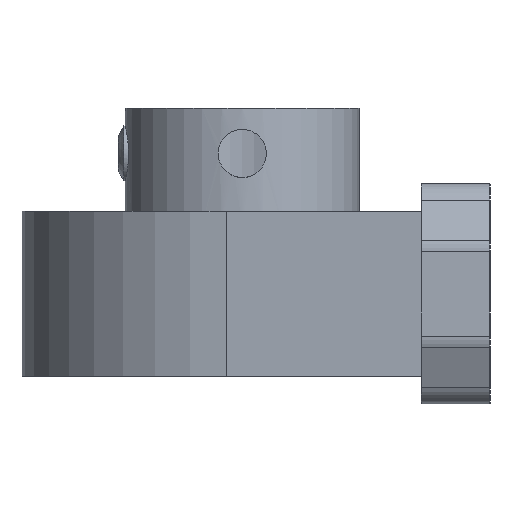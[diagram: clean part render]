
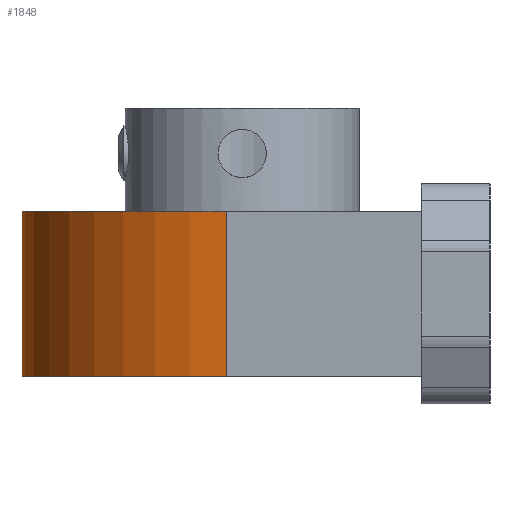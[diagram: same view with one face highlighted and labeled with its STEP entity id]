
A CAD part, left-side view. The second image highlights one B-rep face of the part: STEP entity #1848.
In plain terms, the highlighted cylindrical face has radius 16 mm (diameter 32 mm), a partial arc.
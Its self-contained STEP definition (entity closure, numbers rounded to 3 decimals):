
#1328=CARTESIAN_POINT('',(-15.957,1.174,-6.));
#1329=VERTEX_POINT('',#1328);
#1336=CARTESIAN_POINT('',(15.957,1.174,-6.));
#1337=VERTEX_POINT('',#1336);
#1338=CARTESIAN_POINT('',(0.0,0.0,-6.));
#1339=DIRECTION('',(0.0,0.0,1.0));
#1340=DIRECTION('',(0.997,0.073,0.0));
#1341=AXIS2_PLACEMENT_3D('',#1338,#1339,#1340);
#1342=CIRCLE('',#1341,16.);
#1343=EDGE_CURVE('',#1337,#1329,#1342,.T.);
#1719=CARTESIAN_POINT('',(15.957,1.174,6.));
#1720=VERTEX_POINT('',#1719);
#1727=CARTESIAN_POINT('',(-15.957,1.174,6.));
#1728=VERTEX_POINT('',#1727);
#1729=CARTESIAN_POINT('',(0.0,0.0,6.));
#1730=DIRECTION('',(0.0,0.0,-1.0));
#1731=DIRECTION('',(0.997,0.073,0.0));
#1732=AXIS2_PLACEMENT_3D('',#1729,#1730,#1731);
#1733=CIRCLE('',#1732,16.);
#1734=EDGE_CURVE('',#1728,#1720,#1733,.T.);
#1810=CARTESIAN_POINT('',(15.957,1.174,-6.));
#1811=DIRECTION('',(0.0,0.0,1.0));
#1812=VECTOR('',#1811,12.);
#1813=LINE('',#1810,#1812);
#1814=EDGE_CURVE('',#1337,#1720,#1813,.T.);
#1827=CARTESIAN_POINT('',(-15.957,1.174,-6.));
#1828=DIRECTION('',(0.0,0.0,1.0));
#1829=VECTOR('',#1828,12.);
#1830=LINE('',#1827,#1829);
#1831=EDGE_CURVE('',#1329,#1728,#1830,.T.);
#1837=CARTESIAN_POINT('',(0.0,0.0,0.0));
#1838=DIRECTION('',(0.0,0.0,1.0));
#1839=DIRECTION('',(0.997,0.073,0.0));
#1840=AXIS2_PLACEMENT_3D('',#1837,#1838,#1839);
#1841=CYLINDRICAL_SURFACE('',#1840,16.);
#1842=ORIENTED_EDGE('',*,*,#1734,.T.);
#1843=ORIENTED_EDGE('',*,*,#1814,.F.);
#1844=ORIENTED_EDGE('',*,*,#1343,.T.);
#1845=ORIENTED_EDGE('',*,*,#1831,.T.);
#1846=EDGE_LOOP('',(#1842,#1843,#1844,#1845));
#1847=FACE_OUTER_BOUND('',#1846,.T.);
#1848=ADVANCED_FACE('',(#1847),#1841,.T.);
